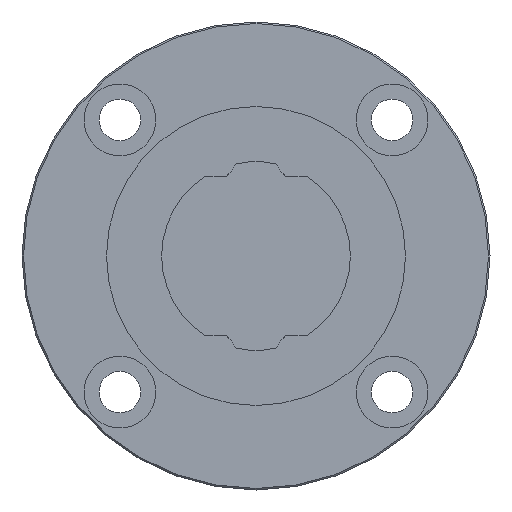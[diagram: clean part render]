
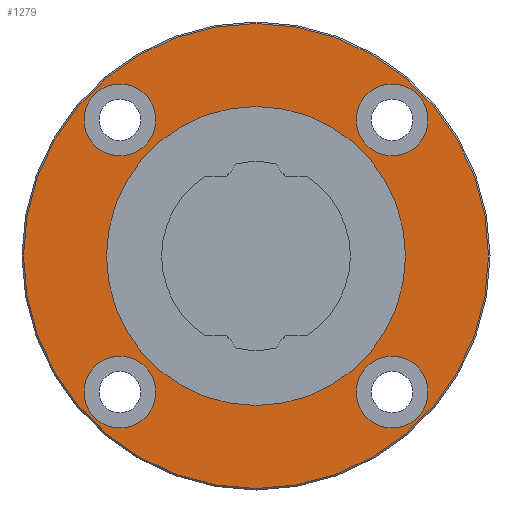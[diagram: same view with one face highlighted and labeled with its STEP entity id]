
A CAD part, left-side view. The second image highlights one B-rep face of the part: STEP entity #1279.
In plain terms, the highlighted planar face has unit normal (-1, 0, 0).
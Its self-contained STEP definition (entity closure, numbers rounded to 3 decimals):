
#48=PLANE('',#1433);
#395=ORIENTED_EDGE('',*,*,#674,.F.);
#396=ORIENTED_EDGE('',*,*,#675,.T.);
#397=ORIENTED_EDGE('',*,*,#676,.T.);
#398=ORIENTED_EDGE('',*,*,#677,.T.);
#399=ORIENTED_EDGE('',*,*,#678,.T.);
#400=ORIENTED_EDGE('',*,*,#673,.T.);
#673=EDGE_CURVE('',#825,#825,#929,.T.);
#674=EDGE_CURVE('',#826,#826,#930,.T.);
#675=EDGE_CURVE('',#827,#827,#931,.T.);
#676=EDGE_CURVE('',#828,#828,#932,.T.);
#677=EDGE_CURVE('',#829,#829,#933,.T.);
#678=EDGE_CURVE('',#830,#830,#934,.T.);
#825=VERTEX_POINT('',#2150);
#826=VERTEX_POINT('',#2153);
#827=VERTEX_POINT('',#2155);
#828=VERTEX_POINT('',#2157);
#829=VERTEX_POINT('',#2159);
#830=VERTEX_POINT('',#2161);
#929=CIRCLE('',#1432,19.8);
#930=CIRCLE('',#1434,30.8);
#931=CIRCLE('',#1435,4.75);
#932=CIRCLE('',#1436,4.75);
#933=CIRCLE('',#1437,4.75);
#934=CIRCLE('',#1438,4.75);
#1002=EDGE_LOOP('',(#395));
#1003=EDGE_LOOP('',(#396));
#1004=EDGE_LOOP('',(#397));
#1005=EDGE_LOOP('',(#398));
#1006=EDGE_LOOP('',(#399));
#1007=EDGE_LOOP('',(#400));
#1118=FACE_BOUND('',#1002,.T.);
#1119=FACE_BOUND('',#1003,.T.);
#1120=FACE_BOUND('',#1004,.T.);
#1121=FACE_BOUND('',#1005,.T.);
#1122=FACE_BOUND('',#1006,.T.);
#1123=FACE_BOUND('',#1007,.T.);
#1279=ADVANCED_FACE('',(#1118,#1119,#1120,#1121,#1122,#1123),#48,.F.);
#1432=AXIS2_PLACEMENT_3D('',#2149,#1731,#1732);
#1433=AXIS2_PLACEMENT_3D('',#2151,#1733,#1734);
#1434=AXIS2_PLACEMENT_3D('',#2152,#1735,#1736);
#1435=AXIS2_PLACEMENT_3D('',#2154,#1737,#1738);
#1436=AXIS2_PLACEMENT_3D('',#2156,#1739,#1740);
#1437=AXIS2_PLACEMENT_3D('',#2158,#1741,#1742);
#1438=AXIS2_PLACEMENT_3D('',#2160,#1743,#1744);
#1731=DIRECTION('',(1.,0.,0.));
#1732=DIRECTION('',(0.,0.,-1.));
#1733=DIRECTION('',(1.,0.,0.));
#1734=DIRECTION('',(0.,0.,-1.));
#1735=DIRECTION('',(1.,0.,0.));
#1736=DIRECTION('',(0.,0.,-1.));
#1737=DIRECTION('',(1.,0.,0.));
#1738=DIRECTION('',(0.,0.,-1.));
#1739=DIRECTION('',(1.,0.,0.));
#1740=DIRECTION('',(0.,0.,-1.));
#1741=DIRECTION('',(1.,0.,0.));
#1742=DIRECTION('',(0.,0.,-1.));
#1743=DIRECTION('',(1.,0.,0.));
#1744=DIRECTION('',(0.,0.,-1.));
#2149=CARTESIAN_POINT('',(-26.3,0.,0.));
#2150=CARTESIAN_POINT('',(-26.3,0.,-19.8));
#2151=CARTESIAN_POINT('',(-26.3,19.8,0.));
#2152=CARTESIAN_POINT('',(-26.3,0.,0.));
#2153=CARTESIAN_POINT('',(-26.3,0.,-30.8));
#2154=CARTESIAN_POINT('',(-26.3,-18.031,18.031));
#2155=CARTESIAN_POINT('',(-26.3,-18.031,13.281));
#2156=CARTESIAN_POINT('',(-26.3,-18.031,-18.031));
#2157=CARTESIAN_POINT('',(-26.3,-18.031,-22.781));
#2158=CARTESIAN_POINT('',(-26.3,18.031,-18.031));
#2159=CARTESIAN_POINT('',(-26.3,18.031,-22.781));
#2160=CARTESIAN_POINT('',(-26.3,18.031,18.031));
#2161=CARTESIAN_POINT('',(-26.3,18.031,13.281));
